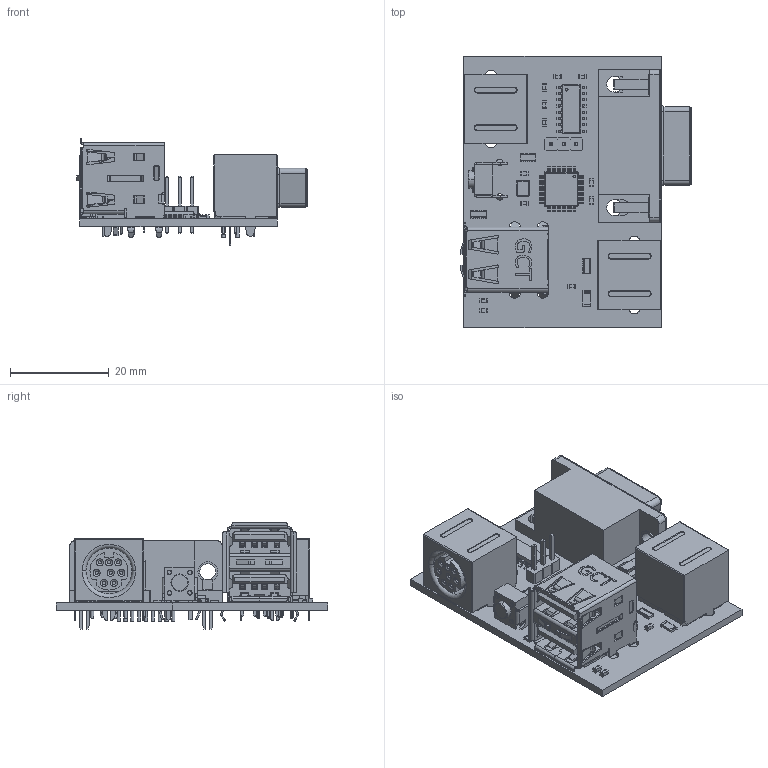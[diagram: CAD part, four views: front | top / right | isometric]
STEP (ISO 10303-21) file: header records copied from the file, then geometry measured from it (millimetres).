
FILE_DESCRIPTION(('KiCad electronic assembly'),'2;1');
FILE_NAME('serial version.STEP','2024-06-14T13:31:04',('Pcbnew'),( 'Kicad'),'Open CASCADE STEP processor 7.7','KiCad to STEP converter' ,'Unknown');
FILE_SCHEMA(('AUTOMOTIVE_DESIGN { 1 0 10303 214 1 1 1 1 }'));
Length unit declared in the file: millimetre
Products named in the file (24): serial version 1; C_0603_1608Metric; KMDGX-8S-BS_rC6; KMDGX-8S-BS_rC3; R_Array_Convex_4x0603; USB1035-15-P-1-B-B; LQFP-48_7x7mm_P0.5mm; LQFP_48_7x7mm_P05mm; SOIC-16_3.9x9.9mm_P1.27mm; SOIC_16_39x99mm_P127mm; Crystal_SMD_3225-4Pin_3.2x2.5mm; PinHeader_1x03_P2.54mm_Vertical; PinHeader_1x03_P254mm_Vertical; c-1825027-5-h-3d; C-1825027-5; DSUB-9_Female_Horizontal_P2.77x2.84mm_EdgePinOffset7.70mm_Housed_
MountingHolesOffset9.12mm; DSUB-9_Female_Horizontal_P2.77x2.84mm_EdgePinOffset7.70mm_Housed_
MountingHolesOffset9.12mm; Fuse_1206_3216Metric; ps2usb_PCB
Assembly tree (37 placements, depth 3):
  serial version 1
    C_0603_1608Metric  x12
      C_0603_1608Metric
    KMDGX-8S-BS_rC6  x2
      KMDGX-8S-BS_rC3
    R_Array_Convex_4x0603  x3
      R_Array_Convex_4x0603
    USB1035-15-P-1-B-B
      USB1035-15-P-1-B-B
    LQFP-48_7x7mm_P0.5mm
      LQFP_48_7x7mm_P05mm
    SOIC-16_3.9x9.9mm_P1.27mm
      SOIC_16_39x99mm_P127mm
    Crystal_SMD_3225-4Pin_3.2x2.5mm
      Crystal_SMD_3225-4Pin_3.2x2.5mm
    PinHeader_1x03_P2.54mm_Vertical
      PinHeader_1x03_P254mm_Vertical
    c-1825027-5-h-3d
      C-1825027-5
    DSUB-9_Female_Horizontal_P2.77x2.84mm_EdgePinOffset7.70mm_Housed_
MountingHolesOffset9.12mm
      DSUB-9_Female_Horizontal_P2.77x2.84mm_EdgePinOffset7.70mm_Housed_
MountingHolesOffset9.12mm
    Fuse_1206_3216Metric
      Fuse_1206_3216Metric
    ps2usb_PCB
Bounding box: 46.61 x 55 x 21.57 mm (x, y, z)
Volume: 12283.1 mm3; surface area: 17409 mm2
Topology: 25 solids, 26 shells, 5166 faces, 14445 edges, 9295 vertices
Faces by surface type: plane 3288, cylinder 1505, bspline 283, cone 49, torus 41
Full cylindrical faces by diameter (mm): 0.5 x1, 0.6 x1, 0.64 x9, 0.853 x9, 0.9 x16, 1 x22, 1.3 x2, 2.2 x6, 2.3 x4, 3.2 x4, 4 x2
Entity records: 150996 total; most frequent: CARTESIAN_POINT 31640, ORIENTED_EDGE 23216, DIRECTION 21084, EDGE_CURVE 11620, LINE 8574, VECTOR 8574, VERTEX_POINT 7423, AXIS2_PLACEMENT_3D 6255
